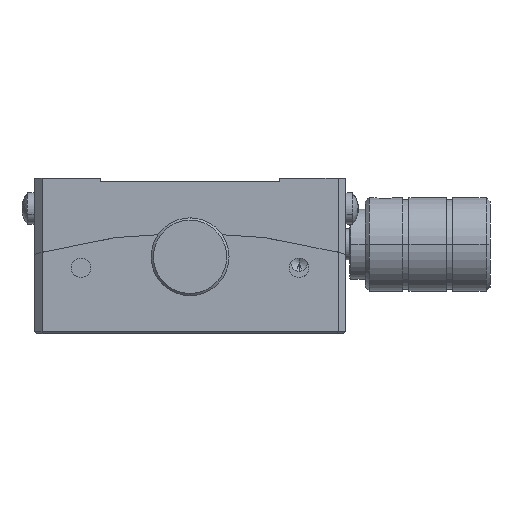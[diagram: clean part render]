
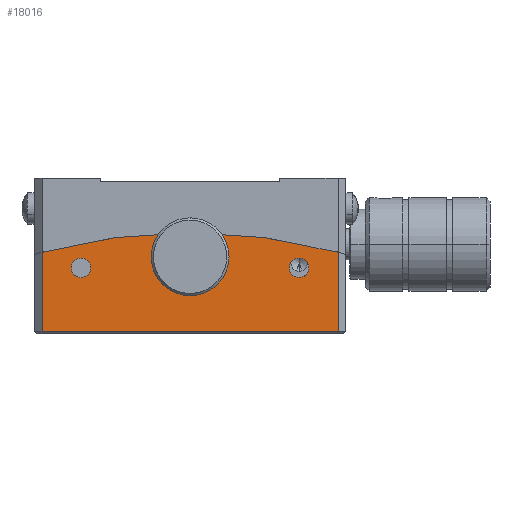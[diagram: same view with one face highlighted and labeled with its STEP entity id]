
A CAD part, front view. The second image highlights one B-rep face of the part: STEP entity #18016.
In plain terms, the highlighted planar face has unit normal (0, -1, 0).
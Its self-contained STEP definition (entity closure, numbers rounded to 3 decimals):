
#173 = ORIENTED_EDGE ( 'NONE', *, *, #25513, .F. ) ;
#211 = DIRECTION ( 'NONE',  ( 0., 0., 1. ) ) ;
#278 = EDGE_CURVE ( 'NONE', #29137, #6034, #15290, .T. ) ;
#1355 = FACE_BOUND ( 'NONE', #24030, .T. ) ;
#1680 = AXIS2_PLACEMENT_3D ( 'NONE', #9218, #25965, #6741 ) ;
#1845 = LINE ( 'NONE', #22798, #10197 ) ;
#2310 = DIRECTION ( 'NONE',  ( 0., 0., 1. ) ) ;
#2462 = CARTESIAN_POINT ( 'NONE',  ( 0., -20., 69.9 ) ) ;
#2766 = CARTESIAN_POINT ( 'NONE',  ( 0., -20., 69.9 ) ) ;
#3351 = DIRECTION ( 'NONE',  ( 1., 0., 0. ) ) ;
#3434 = LINE ( 'NONE', #17697, #13173 ) ;
#4174 = ORIENTED_EDGE ( 'NONE', *, *, #24290, .F. ) ;
#4413 = EDGE_LOOP ( 'NONE', ( #9912, #7359, #20442, #7289 ) ) ;
#4429 = VERTEX_POINT ( 'NONE', #10643 ) ;
#4832 = CARTESIAN_POINT ( 'NONE',  ( -19., -20., 60.3 ) ) ;
#4958 = CARTESIAN_POINT ( 'NONE',  ( 0., -20., 0. ) ) ;
#5747 = EDGE_CURVE ( 'NONE', #6034, #13690, #3434, .T. ) ;
#6034 = VERTEX_POINT ( 'NONE', #13677 ) ;
#6468 = CARTESIAN_POINT ( 'NONE',  ( 0., -20., 68.65 ) ) ;
#6741 = DIRECTION ( 'NONE',  ( 0., 0., 1. ) ) ;
#6804 = DIRECTION ( 'NONE',  ( 0., 0., -1. ) ) ;
#6847 = ORIENTED_EDGE ( 'NONE', *, *, #14777, .F. ) ;
#6927 = FACE_BOUND ( 'NONE', #17523, .T. ) ;
#7289 = ORIENTED_EDGE ( 'NONE', *, *, #29759, .F. ) ;
#7359 = ORIENTED_EDGE ( 'NONE', *, *, #278, .T. ) ;
#7487 = CARTESIAN_POINT ( 'NONE',  ( 14., -20., 69.734 ) ) ;
#8807 = FACE_OUTER_BOUND ( 'NONE', #4413, .T. ) ;
#9218 = CARTESIAN_POINT ( 'NONE',  ( 14., -20., 68.484 ) ) ;
#9912 = ORIENTED_EDGE ( 'NONE', *, *, #20261, .T. ) ;
#9940 = DIRECTION ( 'NONE',  ( 0., 0., 1. ) ) ;
#10092 = CARTESIAN_POINT ( 'NONE',  ( -14., -20., 68.484 ) ) ;
#10197 = VECTOR ( 'NONE', #6804, 1000. ) ;
#10571 = AXIS2_PLACEMENT_3D ( 'NONE', #24579, #29544, #17405 ) ;
#10643 = CARTESIAN_POINT ( 'NONE',  ( -14., -20., 69.734 ) ) ;
#11138 = CARTESIAN_POINT ( 'NONE',  ( 0., -20., 71.15 ) ) ;
#11709 = CARTESIAN_POINT ( 'NONE',  ( 14., -20., 68.484 ) ) ;
#12237 = DIRECTION ( 'NONE',  ( 0., -1., 0. ) ) ;
#12359 = VERTEX_POINT ( 'NONE', #11138 ) ;
#12401 = VERTEX_POINT ( 'NONE', #15465 ) ;
#13173 = VECTOR ( 'NONE', #19403, 1000. ) ;
#13677 = CARTESIAN_POINT ( 'NONE',  ( 19., -20., 60.3 ) ) ;
#13690 = VERTEX_POINT ( 'NONE', #16602 ) ;
#14411 = DIRECTION ( 'NONE',  ( 0., 1., 0. ) ) ;
#14777 = EDGE_CURVE ( 'NONE', #16023, #18534, #23485, .T. ) ;
#14831 = CARTESIAN_POINT ( 'NONE',  ( 0., -20., 60.3 ) ) ;
#15215 = DIRECTION ( 'NONE',  ( 0., -1., 0. ) ) ;
#15290 = LINE ( 'NONE', #14831, #19110 ) ;
#15418 = CIRCLE ( 'NONE', #21379, 1.25 ) ;
#15465 = CARTESIAN_POINT ( 'NONE',  ( -14., -20., 67.234 ) ) ;
#16017 = CIRCLE ( 'NONE', #23953, 1.25 ) ;
#16023 = VERTEX_POINT ( 'NONE', #26943 ) ;
#16342 = EDGE_CURVE ( 'NONE', #18534, #16023, #16017, .T. ) ;
#16495 = EDGE_CURVE ( 'NONE', #4429, #12401, #19969, .T. ) ;
#16602 = CARTESIAN_POINT ( 'NONE',  ( 19., -20., 70.484 ) ) ;
#16868 = DIRECTION ( 'NONE',  ( 0., 0., 1. ) ) ;
#16880 = DIRECTION ( 'NONE',  ( 0., 0., -1. ) ) ;
#17405 = DIRECTION ( 'NONE',  ( 0., 0., 1. ) ) ;
#17523 = EDGE_LOOP ( 'NONE', ( #173, #4174 ) ) ;
#17697 = CARTESIAN_POINT ( 'NONE',  ( 19., -20., -73. ) ) ;
#18016 = ADVANCED_FACE ( 'NONE', ( #1355, #23375, #6927, #8807 ), #18249, .T. ) ;
#18249 = PLANE ( 'NONE',  #25572 ) ;
#18338 = ORIENTED_EDGE ( 'NONE', *, *, #16495, .F. ) ;
#18534 = VERTEX_POINT ( 'NONE', #7487 ) ;
#19110 = VECTOR ( 'NONE', #3351, 1000. ) ;
#19403 = DIRECTION ( 'NONE',  ( 0., 0., 1. ) ) ;
#19792 = CIRCLE ( 'NONE', #30708, 1.25 ) ;
#19969 = CIRCLE ( 'NONE', #10571, 1.25 ) ;
#20261 = EDGE_CURVE ( 'NONE', #30392, #29137, #1845, .T. ) ;
#20442 = ORIENTED_EDGE ( 'NONE', *, *, #5747, .T. ) ;
#20757 = AXIS2_PLACEMENT_3D ( 'NONE', #4958, #14411, #16880 ) ;
#21379 = AXIS2_PLACEMENT_3D ( 'NONE', #10092, #15215, #9940 ) ;
#21472 = DIRECTION ( 'NONE',  ( 0., -1., 0. ) ) ;
#21728 = CIRCLE ( 'NONE', #20757, 73. ) ;
#21860 = ORIENTED_EDGE ( 'NONE', *, *, #23049, .F. ) ;
#21943 = VERTEX_POINT ( 'NONE', #6468 ) ;
#22798 = CARTESIAN_POINT ( 'NONE',  ( -19., -20., -73. ) ) ;
#23049 = EDGE_CURVE ( 'NONE', #12401, #4429, #15418, .T. ) ;
#23180 = CARTESIAN_POINT ( 'NONE',  ( -19., -20., 70.484 ) ) ;
#23375 = FACE_BOUND ( 'NONE', #29785, .T. ) ;
#23485 = CIRCLE ( 'NONE', #1680, 1.25 ) ;
#23953 = AXIS2_PLACEMENT_3D ( 'NONE', #11709, #21472, #211 ) ;
#23960 = ORIENTED_EDGE ( 'NONE', *, *, #16342, .F. ) ;
#24030 = EDGE_LOOP ( 'NONE', ( #23960, #6847 ) ) ;
#24290 = EDGE_CURVE ( 'NONE', #21943, #12359, #25881, .T. ) ;
#24579 = CARTESIAN_POINT ( 'NONE',  ( -14., -20., 68.484 ) ) ;
#24895 = AXIS2_PLACEMENT_3D ( 'NONE', #2766, #12237, #2310 ) ;
#25113 = CARTESIAN_POINT ( 'NONE',  ( 0., -20., -73. ) ) ;
#25513 = EDGE_CURVE ( 'NONE', #12359, #21943, #19792, .T. ) ;
#25572 = AXIS2_PLACEMENT_3D ( 'NONE', #25113, #27745, #30530 ) ;
#25881 = CIRCLE ( 'NONE', #24895, 1.25 ) ;
#25965 = DIRECTION ( 'NONE',  ( 0., -1., 0. ) ) ;
#26943 = CARTESIAN_POINT ( 'NONE',  ( 14., -20., 67.234 ) ) ;
#27745 = DIRECTION ( 'NONE',  ( 0., -1., 0. ) ) ;
#28860 = DIRECTION ( 'NONE',  ( 0., -1., 0. ) ) ;
#29137 = VERTEX_POINT ( 'NONE', #4832 ) ;
#29544 = DIRECTION ( 'NONE',  ( 0., -1., 0. ) ) ;
#29759 = EDGE_CURVE ( 'NONE', #30392, #13690, #21728, .T. ) ;
#29785 = EDGE_LOOP ( 'NONE', ( #18338, #21860 ) ) ;
#30392 = VERTEX_POINT ( 'NONE', #23180 ) ;
#30530 = DIRECTION ( 'NONE',  ( 0., 0., 1. ) ) ;
#30708 = AXIS2_PLACEMENT_3D ( 'NONE', #2462, #28860, #16868 ) ;
